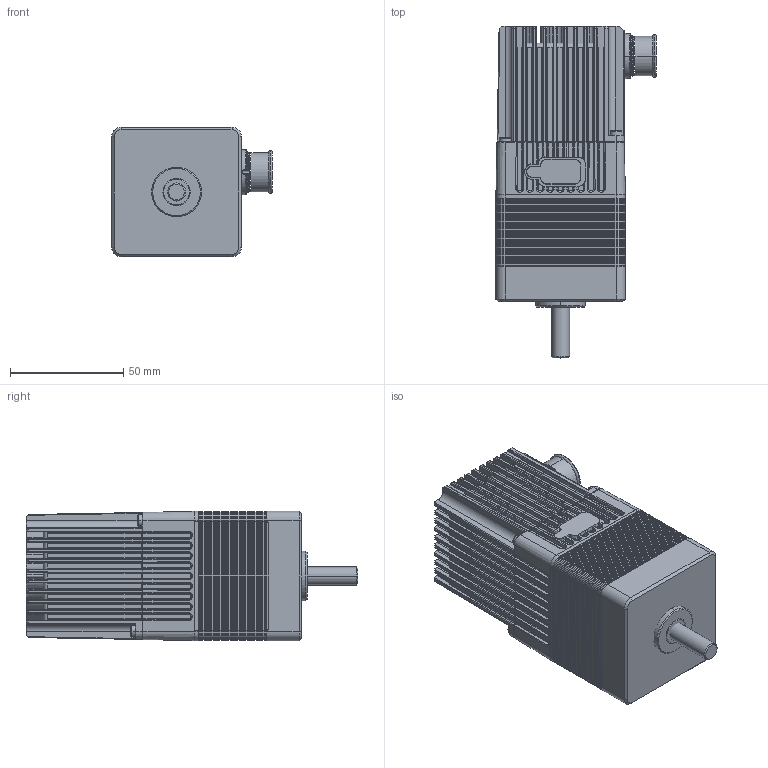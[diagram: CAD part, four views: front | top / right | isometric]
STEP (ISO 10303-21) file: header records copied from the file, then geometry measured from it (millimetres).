
FILE_DESCRIPTION((''),'2;1');
FILE_NAME('ENV_SIMP_STEP_TEMP','2012-10-24T',('VALJBL1'),('CROUZET-AUTOMATISMES'),'PRO/ENGINEER BY PARAMETRIC TECHNOLOGY CORPORATION, 2012090','PRO/ENGINEER BY PARAMETRIC TECHNOLOGY CORPORATION, 2012090','');
FILE_SCHEMA(('CONFIG_CONTROL_DESIGN'));
Products named in the file (1): ENV_SIMP_STEP_TEMP
Bounding box: 71.05 x 146.65 x 57.2 mm (x, y, z)
Surface area: 79510.4 mm2 (no closed solid volume)
Topology: 0 solids, 163 shells, 2732 faces, 8082 edges, 5413 vertices
Faces by surface type: cylinder 1291, plane 1109, bspline 127, sphere 124, torus 59, cone 22
Entity records: 100894 total; most frequent: CARTESIAN_POINT 32292, DIRECTION 13700, ORIENTED_EDGE 13218, EDGE_CURVE 8082, VERTEX_POINT 5413, VECTOR 4630, LINE 4630, AXIS2_PLACEMENT_3D 4535
